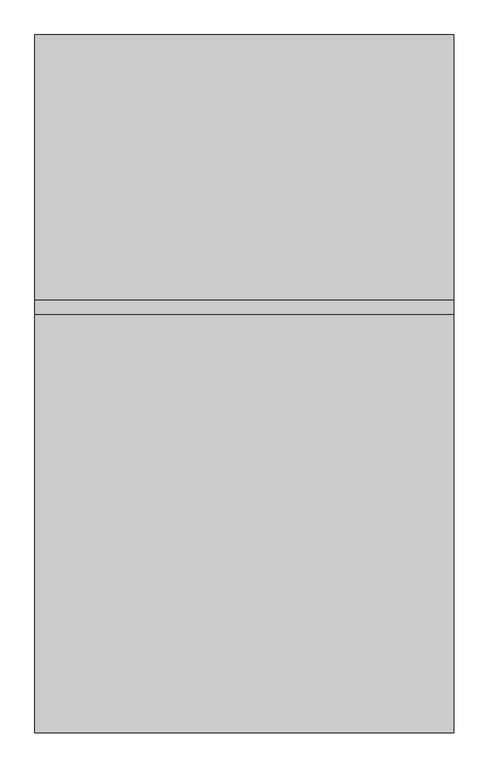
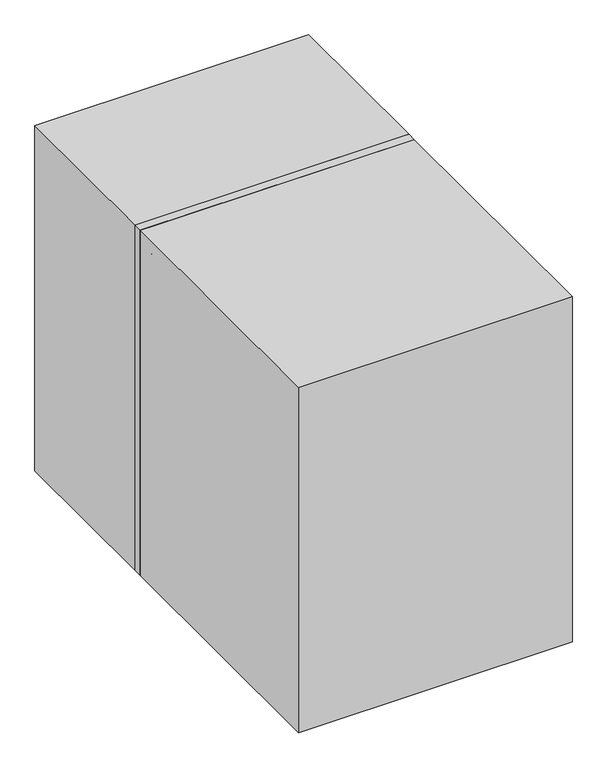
"""IFC4 building model written with IfcOpenShell, lengths in millimetres: electric distribution board geometry, НВО_НавесныеШкафыСплошнаяДверцаКрасные_DKC : 400х600х800 мм (ГхШхВ) RAL3000."""

from ifc_helpers import new_model, si_unit, point, frame, frame_2d, origin, place, context, project, spatial, polyline, circle_curve, trimmed, segment, composite_curve, outline, extrude, faceted_brep, source, transform, mapped, element, save
from ifc_brep_helpers import plane_surface, cylinder_surface, revolved_surface, advanced_brep


def electric_distribution_board_d3c7c81b(model_context):
    return source(origin(), model_context, "Body", "SolidModel", [
        extrude(outline(composite_curve([segment(polyline([(1045.2522548, -210.4361714), (1045.2522548, -202.7599567)]), True, "CONTINUOUS"), segment(trimmed(circle_curve(frame_2d((1054.6374537, -202.7599567)), 9.3851989), [point((1045.2522548, -202.7599567))], [point((1045.9237849, -199.2737072))], False, "CARTESIAN"), True, "CONTINUOUS"), segment(trimmed(circle_curve(frame_2d((1050.4697033, -201.0924825)), 4.8962555), [point((1045.9237849, -199.2737072))], [point((1050.0, -196.2188087))], False, "CARTESIAN"), True, "CONTINUOUS"), segment(trimmed(circle_curve(frame_2d((1049.5302967, -201.0924825)), 4.8962555), [point((1050.0, -196.2188087))], [point((1054.0762151, -199.2737072))], False, "CARTESIAN"), True, "CONTINUOUS"), segment(trimmed(circle_curve(frame_2d((1045.3625463, -202.7599567)), 9.3851989), [point((1054.0762151, -199.2737072))], [point((1054.7477452, -202.7599567))], False, "CARTESIAN"), True, "CONTINUOUS"), segment(polyline([(1054.7477452, -202.7599567), (1054.7477452, -210.4361714), (1045.2522548, -210.4361714)]), True, "CONTINUOUS")], self_intersect=False), holes=[composite_curve([segment(polyline([(1053.4305842, -206.8662202), (1053.4305842, -204.3065187)]), True, "CONTINUOUS"), segment(trimmed(circle_curve(frame_2d((1045.7124901, -204.3065187)), 7.7180942), [point((1053.4305842, -204.3065187))], [point((1052.8023319, -201.256417))], True, "CARTESIAN"), True, "CONTINUOUS"), segment(trimmed(circle_curve(frame_2d((1051.0797503, -201.9974842)), 1.8752248), [point((1052.8023319, -201.256417))], [point((1051.4095765, -200.1514932))], True, "CARTESIAN"), True, "CONTINUOUS"), segment(trimmed(circle_curve(frame_2d((1049.6204625, -210.1649135)), 10.1719966), [point((1051.4095765, -200.1514932))], [point((1050.0, -200.0))], True, "CARTESIAN"), True, "CONTINUOUS"), segment(trimmed(circle_curve(frame_2d((1050.3795375, -210.1649135)), 10.1719966), [point((1050.0, -200.0))], [point((1048.5904235, -200.1514932))], True, "CARTESIAN"), True, "CONTINUOUS"), segment(trimmed(circle_curve(frame_2d((1048.9202497, -201.9974842)), 1.8752248), [point((1048.5904235, -200.1514932))], [point((1047.1976681, -201.256417))], True, "CARTESIAN"), True, "CONTINUOUS"), segment(trimmed(circle_curve(frame_2d((1054.2875099, -204.3065187)), 7.7180942), [point((1047.1976681, -201.256417))], [point((1046.5694158, -204.3065187))], True, "CARTESIAN"), True, "CONTINUOUS"), segment(polyline([(1046.5694158, -204.3065187), (1046.5694158, -206.8662202), (1053.4305842, -206.8662202)]), True, "CONTINUOUS")], self_intersect=False)]), frame((0.0, -402.0, 0.0), z_axis=(0.0, 1.0, 0.0), x_axis=(0.0, 0.0, 1.0)), (0.0, 0.0, 1.0), 2.0),
        extrude(outline(polyline([(1054.7477452, -194.3848727), (1045.2522548, -194.3848727), (1045.2522548, -190.9908575), (1049.2401383, -190.9908575), (1045.2522548, -186.444158), (1045.2522548, -182.3120204), (1050.5384249, -188.1731846), (1054.7477452, -182.4434669), (1054.7477452, -185.0016173), (1050.2876655, -191.0245618), (1054.7477452, -191.0245618), (1054.7477452, -194.3848727)])), frame((0.0, -402.0, 0.0), z_axis=(0.0, 1.0, 0.0), x_axis=(0.0, 0.0, 1.0)), (0.0, 0.0, 1.0), 2.0),
        extrude(outline(composite_curve([segment(trimmed(circle_curve(frame_2d((1040.0078894, -174.3366932)), 14.8634972), [point((1054.0743349, -169.5347498))], [point((1054.6196872, -177.0604615))], False, "CARTESIAN"), True, "CONTINUOUS"), segment(trimmed(circle_curve(frame_2d((1042.9596787, -174.8869328)), 11.860861), [point((1054.6196872, -177.0604615))], [point((1053.3117677, -180.6760845))], False, "CARTESIAN"), True, "CONTINUOUS"), segment(trimmed(circle_curve(frame_2d((1048.8392604, -178.1749446)), 5.1243559), [point((1053.3117677, -180.6760845))], [point((1051.6421758, -182.46478))], False, "CARTESIAN"), True, "CONTINUOUS"), segment(trimmed(circle_curve(frame_2d((1050.1147571, -180.1270803)), 2.7924627), [point((1051.6421758, -182.46478))], [point((1050.0, -182.917184))], False, "CARTESIAN"), True, "CONTINUOUS"), segment(trimmed(circle_curve(frame_2d((1050.1764499, -178.6271352)), 4.2936759), [point((1050.0, -182.917184))], [point((1046.4762827, -180.8053031))], False, "CARTESIAN"), True, "CONTINUOUS"), segment(trimmed(circle_curve(frame_2d((1056.6930797, -174.7910077)), 11.8555763), [point((1046.4762827, -180.8053031))], [point((1045.7901742, -170.134685))], False, "CARTESIAN"), True, "CONTINUOUS"), segment(polyline([(1045.7901742, -170.134685), (1047.2760981, -169.6190256)]), True, "CONTINUOUS"), segment(trimmed(circle_curve(frame_2d((1053.3401731, -173.6307387)), 7.2709591), [point((1047.2760981, -169.6190256))], [point((1047.5933204, -178.0850098))], True, "CARTESIAN"), True, "CONTINUOUS"), segment(trimmed(circle_curve(frame_2d((1049.8135247, -176.3641737)), 2.8090184), [point((1047.5933204, -178.0850098))], [point((1050.8831991, -178.9615532))], True, "CARTESIAN"), True, "CONTINUOUS"), segment(trimmed(circle_curve(frame_2d((1049.3581346, -175.2583969)), 4.0048956), [point((1050.8831991, -178.9615532))], [point((1052.8847256, -177.1563813))], True, "CARTESIAN"), True, "CONTINUOUS"), segment(trimmed(circle_curve(frame_2d((1047.4021495, -174.2057006)), 6.2261671), [point((1052.8847256, -177.1563813))], [point((1052.1645049, -170.1950738))], True, "CARTESIAN"), True, "CONTINUOUS"), segment(polyline([(1052.1645049, -170.1950738), (1054.0743349, -169.5347498)]), True, "CONTINUOUS")], self_intersect=False)), frame((0.0, -402.0, 0.0), z_axis=(0.0, 1.0, 0.0), x_axis=(0.0, 0.0, 1.0)), (0.0, 0.0, 1.0), 2.0),
        extrude(outline(composite_curve([segment(polyline([(-216.0844115, 1053.9810141), (-216.0844115, 1053.1225561), (-217.2764216, 1053.1225561), (-217.2764216, 1053.9989449), (-226.7056091, 1053.9989449), (-226.7056091, 1046.0055647), (-220.8520843, 1046.0055647)]), True, "CONTINUOUS"), segment(trimmed(circle_curve(frame_2d((-220.8520843, 1047.9883644)), 1.9827998), [point((-220.8520843, 1046.0055647))], [point((-222.7799001, 1047.524661))], False, "CARTESIAN"), True, "CONTINUOUS"), segment(polyline([(-222.7799001, 1047.524661), (-222.7799001, 1048.5784181)]), True, "CONTINUOUS"), segment(trimmed(circle_curve(frame_2d((-217.7500222, 1053.048804)), 6.7293403), [point((-222.7799001, 1048.5784181))], [point((-212.7201443, 1048.5784181))], True, "CARTESIAN"), True, "CONTINUOUS"), segment(polyline([(-212.7201443, 1048.5784181), (-212.7201443, 1047.2967122)]), True, "CONTINUOUS"), segment(trimmed(circle_curve(frame_2d((-216.7257862, 1050.1985482)), 4.9462935), [point((-212.7201443, 1047.2967122))], [point((-216.7257862, 1045.2522548))], False, "CARTESIAN"), True, "CONTINUOUS"), segment(polyline([(-216.7257862, 1045.2522548), (-228.8959546, 1045.2522548)]), True, "CONTINUOUS"), segment(trimmed(circle_curve(frame_2d((-228.8959546, 1046.2525173)), 1.0002626), [point((-228.8959546, 1045.2522548))], [point((-229.8962172, 1046.2525173))], False, "CARTESIAN"), True, "CONTINUOUS"), segment(polyline([(-229.8962172, 1046.2525173), (-229.8962172, 1053.7482214)]), True, "CONTINUOUS"), segment(trimmed(circle_curve(frame_2d((-228.8921838, 1053.7482214)), 1.0040334), [point((-229.8962172, 1053.7482214))], [point((-228.8921838, 1054.7522548))], False, "CARTESIAN"), True, "CONTINUOUS"), segment(polyline([(-228.8921838, 1054.7522548), (-216.8556522, 1054.7522548)]), True, "CONTINUOUS"), segment(trimmed(circle_curve(frame_2d((-216.8556522, 1053.9810141)), 0.7712407), [point((-216.8556522, 1054.7522548))], [point((-216.0844115, 1053.9810141))], False, "CARTESIAN"), True, "CONTINUOUS")], self_intersect=False)), frame((0.0, -400.0, 0.0), z_axis=(0.0, -1.0, 0.0), x_axis=(1.0, 0.0, 0.0)), (0.0, 0.0, 1.0), 2.0),
        extrude(outline(composite_curve([segment(polyline([(1049.1735802, -212.7201443), (1049.9609475, -212.7201443)]), True, "CONTINUOUS"), segment(trimmed(circle_curve(frame_2d((1055.0528216, -217.7500222)), 7.1572937), [point((1049.9609475, -212.7201443))], [point((1049.9609475, -222.7799001))], True, "CARTESIAN"), True, "CONTINUOUS"), segment(polyline([(1049.9609475, -222.7799001), (1049.1735802, -222.7799001)]), True, "CONTINUOUS"), segment(trimmed(circle_curve(frame_2d((1053.6469573, -217.7500222)), 6.7313279), [point((1049.1735802, -222.7799001))], [point((1049.1735802, -212.7201443))], False, "CARTESIAN"), True, "CONTINUOUS")], self_intersect=False)), frame((0.0, -402.0, 0.0), z_axis=(0.0, 1.0, 0.0), x_axis=(0.0, 0.0, 1.0)), (0.0, 0.0, 1.0), 2.0),
        extrude(outline(composite_curve([segment(trimmed(circle_curve(frame_2d((1045.6681942, -217.6745713)), 5.9267817), [point((1049.8365314, -213.4612939))], [point((1049.892123, -221.8321146))], False, "CARTESIAN"), True, "CONTINUOUS"), segment(polyline([(1049.892123, -221.8321146), (1049.3386839, -221.2786755)]), True, "CONTINUOUS"), segment(trimmed(circle_curve(frame_2d((1044.0800223, -217.6967539)), 6.3626791), [point((1049.3386839, -221.2786755))], [point((1049.3386839, -214.1148323))], True, "CARTESIAN"), True, "CONTINUOUS"), segment(polyline([(1049.3386839, -214.1148323), (1049.8365314, -213.4612939)]), True, "CONTINUOUS")], self_intersect=False)), frame((0.0, -402.0, 0.0), z_axis=(0.0, 1.0, 0.0), x_axis=(0.0, 0.0, 1.0)), (0.0, 0.0, 1.0), 2.0),
        extrude(outline(composite_curve([segment(trimmed(circle_curve(frame_2d((1043.5765057, -217.7053491)), 6.5304546), [point((1049.2646248, -214.4972128))], [point((1049.2646248, -220.9134855))], False, "CARTESIAN"), True, "CONTINUOUS"), segment(polyline([(1049.2646248, -220.9134855), (1048.9146088, -220.0681193)]), True, "CONTINUOUS"), segment(trimmed(circle_curve(frame_2d((1042.4429647, -217.6966214)), 6.8924726), [point((1048.9146088, -220.0681193))], [point((1048.9146088, -215.3251236))], True, "CARTESIAN"), True, "CONTINUOUS"), segment(polyline([(1048.9146088, -215.3251236), (1049.2646248, -214.4972128)]), True, "CONTINUOUS")], self_intersect=False)), frame((0.0, -402.0, 0.0), z_axis=(0.0, 1.0, 0.0), x_axis=(0.0, 0.0, 1.0)), (0.0, 0.0, 1.0), 2.0),
        extrude(outline(composite_curve([segment(polyline([(1049.9744254, -213.3219133), (1050.6884044, -212.6079342)]), True, "CONTINUOUS"), segment(trimmed(circle_curve(frame_2d((1045.6681942, -217.6745713)), 7.1325536), [point((1050.6884044, -212.6079342))], [point((1050.7458455, -222.683641))], False, "CARTESIAN"), True, "CONTINUOUS"), segment(polyline([(1050.7458455, -222.683641), (1050.031856, -221.9696515)]), True, "CONTINUOUS"), segment(trimmed(circle_curve(frame_2d((1045.6681942, -217.6745713)), 6.1228472), [point((1050.031856, -221.9696515))], [point((1049.9744254, -213.3219133))], True, "CARTESIAN"), True, "CONTINUOUS")], self_intersect=False)), frame((0.0, -402.0, 0.0), z_axis=(0.0, 1.0, 0.0), x_axis=(0.0, 0.0, 1.0)), (0.0, 0.0, 1.0), 2.0),
        advanced_brep(
        [(-280.0, -410.0, 677.0), (-280.0, -410.0, 703.0), (-280.0, -403.0, 710.0), (-280.0, -400.0, 710.0), (-280.0, -400.0, 670.0), (-280.0, -403.0, 670.0), (-240.0, -410.0, 677.0), (-240.0, -403.0, 670.0), (-240.0, -400.0, 670.0), (-240.0, -400.0, 710.0), (-240.0, -403.0, 710.0), (-240.0, -410.0, 703.0), (-270.0, -410.0, 690.0), (-250.0, -410.0, 690.0), (-250.0, -408.0, 690.0), (-270.0, -408.0, 690.0)],
        [
            (0, 1),
            (1, 2, circle_curve(frame((-280.0, -403.0, 703.0), z_axis=(-1.0, 0.0, 0.0), x_axis=(0.0, 0.0, -1.0)), 7.0)),
            (2, 3),
            (3, 4),
            (4, 5),
            (5, 0, circle_curve(frame((-280.0, -403.0, 677.0), z_axis=(-1.0, 0.0, 0.0), x_axis=(0.0, 0.0, -1.0)), 7.0)),
            (6, 7, circle_curve(frame((-240.0, -403.0, 677.0), z_axis=(1.0, 0.0, 0.0), x_axis=(0.0, 0.0, -1.0)), 7.0)),
            (7, 8),
            (8, 9),
            (9, 10),
            (10, 11, circle_curve(frame((-240.0, -403.0, 703.0), z_axis=(1.0, 0.0, 0.0), x_axis=(0.0, 0.0, -1.0)), 7.0)),
            (11, 6),
            (0, 6),
            (11, 1),
            (12, 13, circle_curve(frame((-260.0, -410.0, 690.0), z_axis=(0.0, 1.0, 0.0), x_axis=(-1.0, 0.0, 0.0)), 10.0)),
            (13, 12, circle_curve(frame((-260.0, -410.0, 690.0), z_axis=(0.0, 1.0, 0.0), x_axis=(-1.0, 0.0, 0.0)), 10.0)),
            (10, 2),
            (9, 3),
            (8, 4),
            (7, 5),
            (14, 15, circle_curve(frame((-260.0, -408.0, 690.0), z_axis=(0.0, -1.0, 0.0), x_axis=(-1.0, 0.0, 0.0)), 10.0)),
            (15, 14, circle_curve(frame((-260.0, -408.0, 690.0), z_axis=(0.0, -1.0, 0.0), x_axis=(-1.0, 0.0, 0.0)), 10.0)),
            (14, 13),
            (12, 15),
        ],
        [
            plane_surface(frame((-280.0, -410.0, 702.2232354), z_axis=(-1.0, 0.0, 0.0), x_axis=(0.0, 0.0, 1.0))),
            plane_surface(frame((-240.0, -410.0, 702.2232354), z_axis=(1.0, 0.0, 0.0), x_axis=(0.0, 0.0, -1.0))),
            plane_surface(frame((-280.0, -410.0, 677.0), z_axis=(0.0, -1.0, 0.0), x_axis=(1.0, 0.0, 0.0))),
            cylinder_surface(frame((-240.0, -403.0, 703.0), z_axis=(-1.0, 0.0, 0.0), x_axis=(0.0, 0.0, -1.0)), 7.0),
            plane_surface(frame((-280.0, -403.0, 710.0), z_axis=(0.0, 0.0, 1.0), x_axis=(1.0, 0.0, 0.0))),
            plane_surface(frame((-280.0, -400.0, 710.0), z_axis=(0.0, 1.0, 0.0), x_axis=(1.0, 0.0, 0.0))),
            plane_surface(frame((-280.0, -400.0, 670.0), z_axis=(0.0, 0.0, -1.0), x_axis=(1.0, 0.0, 0.0))),
            cylinder_surface(frame((-240.0, -403.0, 677.0), z_axis=(-1.0, 0.0, 0.0), x_axis=(0.0, 0.0, -1.0)), 7.0),
            plane_surface(frame((-270.0, -408.0, 690.0), z_axis=(0.0, -1.0, 0.0), x_axis=(0.0, 0.0, 1.0))),
            revolved_surface(polyline([(-270.0, -410.0, 690.0), (-270.0, -408.0, 690.0)]), (-260.0, -408.0, 690.0), (0.0, -1.0, 0.0)),
        ],
        [
            (0, [[1, 2, 3, 4, 5, 6]]),
            (1, [[7, 8, 9, 10, 11, 12]]),
            (2, [[-1, 13, -12, 14], [15, 16]]),
            (3, [[-2, -14, -11, 17]]),
            (4, [[-3, -17, -10, 18]]),
            (5, [[-4, -18, -9, 19]]),
            (6, [[-5, -19, -8, 20]]),
            (7, [[-6, -20, -7, -13]]),
            (8, [[21, 22]]),
            (9, [[-21, 23, -15, 24]]),
            (9, [[-22, -24, -16, -23]]),
        ],
    ),
        advanced_brep(
        [(-280.0, -410.0, 1397.0), (-280.0, -410.0, 1423.0), (-280.0, -403.0, 1430.0), (-280.0, -400.0, 1430.0), (-280.0, -400.0, 1390.0), (-280.0, -403.0, 1390.0), (-240.0, -410.0, 1397.0), (-240.0, -403.0, 1390.0), (-240.0, -400.0, 1390.0), (-240.0, -400.0, 1430.0), (-240.0, -403.0, 1430.0), (-240.0, -410.0, 1423.0), (-270.0, -410.0, 1410.0), (-250.0, -410.0, 1410.0), (-250.0, -408.0, 1410.0), (-270.0, -408.0, 1410.0)],
        [
            (0, 1),
            (1, 2, circle_curve(frame((-280.0, -403.0, 1423.0), z_axis=(-1.0, 0.0, 0.0), x_axis=(0.0, 0.0, -1.0)), 7.0)),
            (2, 3),
            (3, 4),
            (4, 5),
            (5, 0, circle_curve(frame((-280.0, -403.0, 1397.0), z_axis=(-1.0, 0.0, 0.0), x_axis=(0.0, 0.0, -1.0)), 7.0)),
            (6, 7, circle_curve(frame((-240.0, -403.0, 1397.0), z_axis=(1.0, 0.0, 0.0), x_axis=(0.0, 0.0, -1.0)), 7.0)),
            (7, 8),
            (8, 9),
            (9, 10),
            (10, 11, circle_curve(frame((-240.0, -403.0, 1423.0), z_axis=(1.0, 0.0, 0.0), x_axis=(0.0, 0.0, -1.0)), 7.0)),
            (11, 6),
            (0, 6),
            (11, 1),
            (12, 13, circle_curve(frame((-260.0, -410.0, 1410.0), z_axis=(0.0, 1.0, 0.0), x_axis=(-1.0, 0.0, 0.0)), 10.0)),
            (13, 12, circle_curve(frame((-260.0, -410.0, 1410.0), z_axis=(0.0, 1.0, 0.0), x_axis=(-1.0, 0.0, 0.0)), 10.0)),
            (10, 2),
            (9, 3),
            (8, 4),
            (7, 5),
            (14, 15, circle_curve(frame((-260.0, -408.0, 1410.0), z_axis=(0.0, -1.0, 0.0), x_axis=(-1.0, 0.0, 0.0)), 10.0)),
            (15, 14, circle_curve(frame((-260.0, -408.0, 1410.0), z_axis=(0.0, -1.0, 0.0), x_axis=(-1.0, 0.0, 0.0)), 10.0)),
            (14, 13),
            (12, 15),
        ],
        [
            plane_surface(frame((-280.0, -410.0, 1422.2232354), z_axis=(-1.0, 0.0, 0.0), x_axis=(0.0, 0.0, 1.0))),
            plane_surface(frame((-240.0, -410.0, 1422.2232354), z_axis=(1.0, 0.0, 0.0), x_axis=(0.0, 0.0, -1.0))),
            plane_surface(frame((-280.0, -410.0, 1397.0), z_axis=(0.0, -1.0, 0.0), x_axis=(1.0, 0.0, 0.0))),
            cylinder_surface(frame((-240.0, -403.0, 1423.0), z_axis=(-1.0, 0.0, 0.0), x_axis=(0.0, 0.0, -1.0)), 7.0),
            plane_surface(frame((-280.0, -403.0, 1430.0), z_axis=(0.0, 0.0, 1.0), x_axis=(1.0, 0.0, 0.0))),
            plane_surface(frame((-280.0, -400.0, 1430.0), z_axis=(0.0, 1.0, 0.0), x_axis=(1.0, 0.0, 0.0))),
            plane_surface(frame((-280.0, -400.0, 1390.0), z_axis=(0.0, 0.0, -1.0), x_axis=(1.0, 0.0, 0.0))),
            cylinder_surface(frame((-240.0, -403.0, 1397.0), z_axis=(-1.0, 0.0, 0.0), x_axis=(0.0, 0.0, -1.0)), 7.0),
            plane_surface(frame((-270.0, -408.0, 1410.0), z_axis=(0.0, -1.0, 0.0), x_axis=(0.0, 0.0, 1.0))),
            revolved_surface(polyline([(-270.0, -410.0, 1410.0), (-270.0, -408.0, 1410.0)]), (-260.0, -408.0, 1410.0), (0.0, -1.0, 0.0)),
        ],
        [
            (0, [[1, 2, 3, 4, 5, 6]]),
            (1, [[7, 8, 9, 10, 11, 12]]),
            (2, [[-1, 13, -12, 14], [15, 16]]),
            (3, [[-2, -14, -11, 17]]),
            (4, [[-3, -17, -10, 18]]),
            (5, [[-4, -18, -9, 19]]),
            (6, [[-5, -19, -8, 20]]),
            (7, [[-6, -20, -7, -13]]),
            (8, [[21, 22]]),
            (9, [[-21, 23, -15, 24]]),
            (9, [[-22, -24, -16, -23]]),
        ],
    ),
        extrude(outline(polyline([(300.0, -380.0), (300.0, -400.0), (-300.0, -400.0), (-300.0, -380.0), (300.0, -380.0)])), frame((0.0, 0.0, 650.0), z_axis=(0.0, 0.0, 1.0), x_axis=(1.0, 0.0, 0.0)), (0.0, 0.0, 1.0), 800.0),
        extrude(outline(polyline([(280.0, -41.0), (-280.0, -41.0), (-280.0, -40.0), (280.0, -40.0), (280.0, -41.0)])), frame((0.0, 0.0, 670.0), z_axis=(0.0, 0.0, 1.0), x_axis=(1.0, 0.0, 0.0)), (0.0, 0.0, 1.0), 760.0),
        faceted_brep([(-300.0, 0.0, 1450.0), (300.0, 0.0, 1450.0), (300.0, 0.0, 650.0), (-300.0, 0.0, 650.0), (280.0, -20.0, 670.0), (280.0, -20.0, 1430.0), (-280.0, -20.0, 1430.0), (-280.0, -20.0, 670.0), (300.0, -380.0, 1450.0), (-300.0, -380.0, 1450.0), (-300.0, -380.0, 650.0), (300.0, -380.0, 650.0), (280.0, -380.0, 1430.0), (280.0, -380.0, 670.0), (-280.0, -380.0, 670.0), (-280.0, -380.0, 1430.0)], [[[0, 1, 2, 3]], [[4, 5, 6, 7]], [[8, 9, 10, 11], [12, 13, 14, 15]], [[9, 8, 1, 0]], [[10, 9, 0, 3]], [[11, 10, 3, 2]], [[1, 8, 11, 2]], [[13, 12, 5, 4]], [[14, 13, 4, 7]], [[15, 14, 7, 6]], [[12, 15, 6, 5]]]),
        extrude(outline(polyline([(300.0, -1000.0), (-300.0, -1000.0), (-300.0, -400.0), (300.0, -400.0), (300.0, -1000.0)])), frame((0.0, 0.0, 650.0), z_axis=(0.0, 0.0, 1.0), x_axis=(1.0, 0.0, 0.0)), (0.0, 0.0, 1.0), 800.0),
    ])


if __name__ == "__main__":
    model = new_model("IFC4")
    model_context = context("Model", 3, world=origin())
    ifc_project = project(units=[si_unit("LENGTHUNIT", "METRE", prefix="MILLI")], contexts=[model_context])
    site = spatial("IfcSite", under=ifc_project)
    building = spatial("IfcBuilding", under=site)
    placement = place(None, origin())
    electric_distribution_board_shape = electric_distribution_board_d3c7c81b(model_context)
    element("IfcElectricDistributionBoard", 1, ObjectType="НВО_НавесныеШкафыСплошнаяДверцаКрасные_DKC : 400х600х800 мм (ГхШхВ) RAL3000", at=placement, inside=building, context=model_context, shape_type="MappedRepresentation", body=[
        mapped(electric_distribution_board_shape, transform((0.0, 0.0, 0.0), x_axis=(1.0, 0.0, 0.0), y_axis=(0.0, 1.0, 0.0), z_axis=(0.0, 0.0, 1.0))),
    ])
    save(model, "model.ifc")
